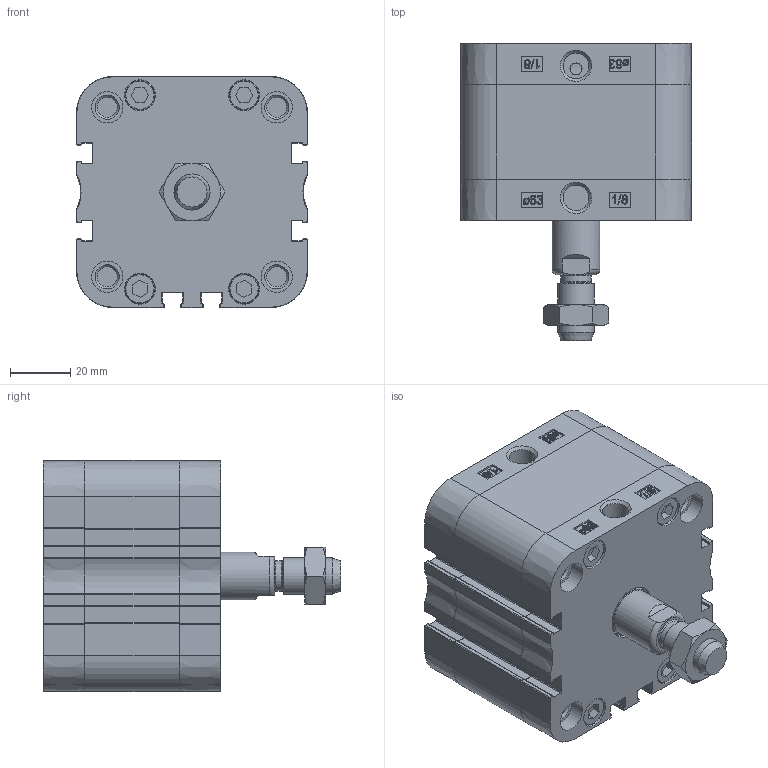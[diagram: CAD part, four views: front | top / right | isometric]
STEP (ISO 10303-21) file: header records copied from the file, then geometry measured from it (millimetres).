
FILE_DESCRIPTION(/* description */ ('Unknown'),/* implementation_level */ '2;1');
FILE_NAME(/* name */ 'ZEFV 63_10',/* time_stamp */ '2024-11-14T13:11:07+01:00',/* author */ ('Unknown'),/* organization */ ('Unknown'),/* preprocessor_version */ 'ST-DEVELOPER v16.7',/* originating_system */ 'Solid Edge',/* authorisation */ 'Unknown');
FILE_SCHEMA (('AUTOMOTIVE_DESIGN {1 0 10303 214 3 1 1}'));
Length unit declared in the file: millimetre
Products named in the file (6): ZEFV 63_10; Kit_2; Kit_1; Kolbenstange; Profilrohr; Mutter
Assembly tree (5 placements, depth 2):
  ZEFV 63_10
    Kit_2
    Kit_1
    Kolbenstange
    Profilrohr
    Mutter
Bounding box: 77 x 99 x 77 mm (x, y, z)
Volume: 295126.4 mm3; surface area: 76043.2 mm2
Topology: 5 solids, 5 shells, 758 faces, 2007 edges, 1325 vertices
Faces by surface type: plane 353, cylinder 213, bspline 124, cone 47, torus 21
Full cylindrical faces by diameter (mm): 4 x1, 6.647 x8, 8.566 x2, 9.8 x8, 10 x1, 10.3 x8, 10.5 x8, 10.647 x1, 12 x2, 16 x1, 16.54 x1, 17.7 x1, 18 x1, 20.5 x1, 63 x2
Entity records: 28451 total; most frequent: CARTESIAN_POINT 5936, ORIENTED_EDGE 3798, DIRECTION 3378, EDGE_CURVE 1899, VERTEX_POINT 1309, AXIS2_PLACEMENT_3D 1142, LINE 1094, VECTOR 1094
